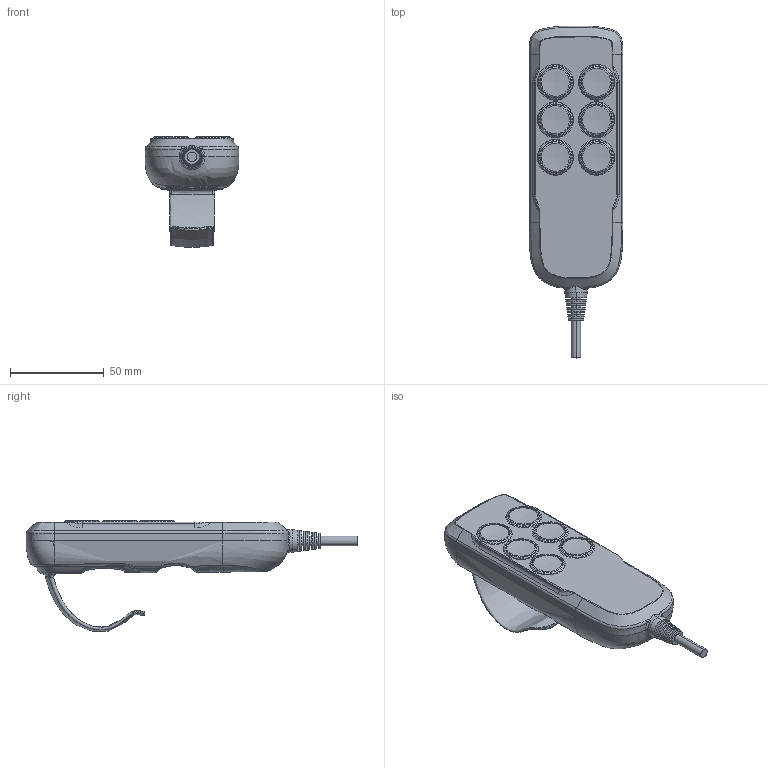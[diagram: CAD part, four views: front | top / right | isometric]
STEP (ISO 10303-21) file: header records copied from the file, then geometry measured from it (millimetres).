
FILE_DESCRIPTION (( 'STEP AP203' ), '1' );
FILE_NAME ('TH11六按鍵普通掛鉤.STEP', '2014-01-16T03:40:58', ( 'stanley' ), ( '' ), 'SwSTEP 2.0', 'SolidWorks 2010', '' );
FILE_SCHEMA (( 'CONFIG_CONTROL_DESIGN' ));
Length unit declared in the file: millimetre
Products named in the file (1): TH11六按鍵普通掛鉤
Bounding box: 50 x 177 x 58.98 mm (x, y, z)
Volume: 165607.8 mm3; surface area: 29231.7 mm2
Topology: 1 solids, 5 shells, 484 faces, 1188 edges, 739 vertices
Faces by surface type: plane 191, bspline 118, cylinder 117, torus 54, cone 4
Entity records: 48071 total; most frequent: CARTESIAN_POINT 37422, ORIENTED_EDGE 2368, DIRECTION 1932, EDGE_CURVE 1184, AXIS2_PLACEMENT_3D 763, VERTEX_POINT 739, EDGE_LOOP 513, FACE_OUTER_BOUND 484
